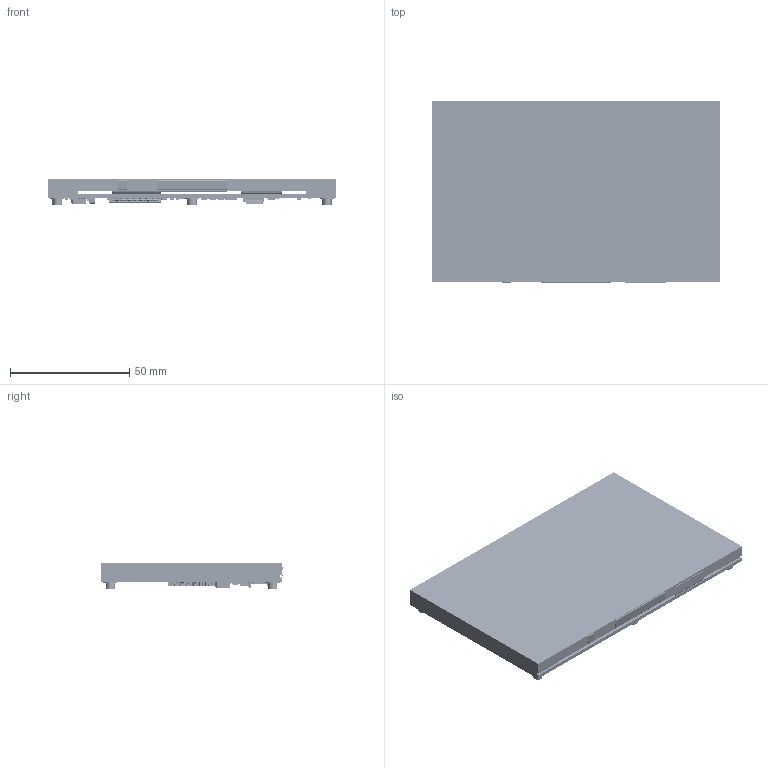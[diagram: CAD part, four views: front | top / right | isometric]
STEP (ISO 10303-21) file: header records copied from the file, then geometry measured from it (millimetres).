
FILE_DESCRIPTION (( 'STEP AP214' ), '1' );
FILE_NAME ('CFA800480E3-050SC.STEP', '2023-03-16T18:06:29', ( '' ), ( '' ), 'SwSTEP 2.0', 'SolidWorks 2021', '' );
FILE_SCHEMA (( 'AUTOMOTIVE_DESIGN' ));
Length unit declared in the file: millimetre
Products named in the file (45): INDP6060X25N_CMP-007-000033-1; 01655_CAM_CMP-004-000010-1; ERJ2R_Family_CAM_CMP-005-000028-2; ERJ2R_Family_CAM_CMP-009-00186-2; cfa-10100; FP-CL313-IPC_B_CMP-001-00085-3; 03064_CAM_03063_SCH-1; CFA800480E3-050SC; RESC1608X55X30ML15T15_CMP-007-000035-2; ERJ2R_Family_CAM_CMP-009-00179-1; 00289_CAM_00289_SCH-1; ERJ2R_Family_CAM_CMP-005-000027-2; 00133_CAM_CMP-004-000007-1; CS050Y30T-B0_CAM_CS050Y30T-B0-2; ERJ2R_Family_CAM_CMP-009-00184-2; CS050Z10G-A0; QFN50P900X900X80_HS-65N_CMP-007-000016-3; ERJ2R_Family_CAM_CMP-005-000029-3; FA-20H_12.0000MD30Z-K3_CMP-002-00080-3; ERJ2R_Family_CAM_CMP-009-00183-1; ERJ2R_Family_CAM_CMP-009-00187-1; 00289_CAM_CMP-004-000001-1; CL05_Footprint_CMP-007-000018-1; 16110_CAM_00191_SCH-1; 03064_CAM_03064_SCH-1; 15032_CAM_CMP-004-000012-1; 01655_CAM_01655_SCH-1; ERJ2R_Family_CAM_CMP-009-00185-2; FP-CL696-IPC_B_CMP-001-00089-1; FP-SOT26_SC74R-MFG_CMP-001-0018-1; FP-DO-214AC-MFG_CMP-004-00040-1; SOD123-3.65x1.55_CMP-004-00041-1; FP-SOT23-IPC_B_CMP-007-000034-2; ERJ2R_Family_CAM_03068_SCH-1; CS050Z40G-B0; 00133_CAM_00133_SCH-5; CFPN_01712; cfa-10100_BOARD; SON127P600X80_HS-9N_CMP-002-00081-2; ERJ2R_Family_CAM_03071_SCH-1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
Assembly tree (90 placements, depth 3):
  CFA800480E3-050SC
    CFAF800480E1-050SC
    cfa-10100
      cfa-10100_BOARD
      FP-CL313-IPC_B_CMP-001-00085-3
      CL05_Footprint_CMP-007-000018-1
      01655_CAM_CMP-004-000010-1  x4
      FA-20H_12.0000MD30Z-K3_CMP-002-00080-3
      SON127P600X80_HS-9N_CMP-002-00081-2
      FP-SOT23-IPC_B_CMP-007-000034-2
      FP-SOT26_SC74R-MFG_CMP-001-0018-1
      QFN50P500X500X85_HS-33N_CMP-007-000032-3
      ERJ2R_Family_CAM_CMP-009-00179-1  x6
      ERJ2R_Family_CAM_CMP-005-000027-2  x5
      ERJ2R_Family_CAM_CMP-009-00183-1
      ERJ2R_Family_CAM_03071_SCH-1
      16110_CAM_00191_SCH-1
      ERJ2R_Family_CAM_03068_SCH-1
      03064_CAM_03063_SCH-1  x2
      03064_CAM_03064_SCH-1
      ERJ2R_Family_CAM_CMP-005-000028-2  x2
      RESC1608X55X30ML15T15_CMP-007-000035-2
      ERJ2R_Family_CAM_CMP-009-00187-1
      ERJ2R_Family_CAM_CMP-009-00186-2
      ERJ2R_Family_CAM_CMP-009-00185-2
      ERJ2R_Family_CAM_CMP-009-00184-2
      ERJ2R_Family_CAM_CMP-005-000029-3  x2
      QFN50P900X900X80_HS-65N_CMP-007-000016-3
      INDP6060X25N_CMP-007-000033-1
      FP-DO-214AC-MFG_CMP-004-00040-1
      00289_CAM_00289_SCH-1  x11
      00133_CAM_00133_SCH-5  x12
      00289_CAM_CMP-004-000001-1
      FP-CL696-IPC_B_CMP-001-00089-1  x2
      00133_CAM_CMP-004-000007-1
      FP-CL165-IPC_B_CMP-001-00090-2  x3
      15032_CAM_CMP-004-000012-1  x2
      01655_CAM_01655_SCH-1
      ERJ2R_Family_CAM_CMP-009-00179-2
      SOD123-3.65x1.55_CMP-004-00041-1
      CS050Y30T-B0_CAM_CS050Y30T-B0-2
    clear_1mm_tape  x2
    CFPN_01712  x6
    CS050Z40G-B0
    CS050Z10G-A0
Bounding box: 120.7 x 76.26 x 10.67 mm (x, y, z)
Volume: 59820 mm3; surface area: 69397.9 mm2
Topology: 430 solids, 545 shells, 16386 faces, 45858 edges, 29857 vertices
Faces by surface type: plane 10649, cylinder 4376, bspline 1117, sphere 224, cone 12, torus 8
Entity records: 586614 total; most frequent: CARTESIAN_POINT 120050, ORIENTED_EDGE 84522, DIRECTION 66830, EDGE_CURVE 42264, VECTOR 29694, LINE 29694, VERTEX_POINT 27514, AXIS2_PLACEMENT_3D 18568
